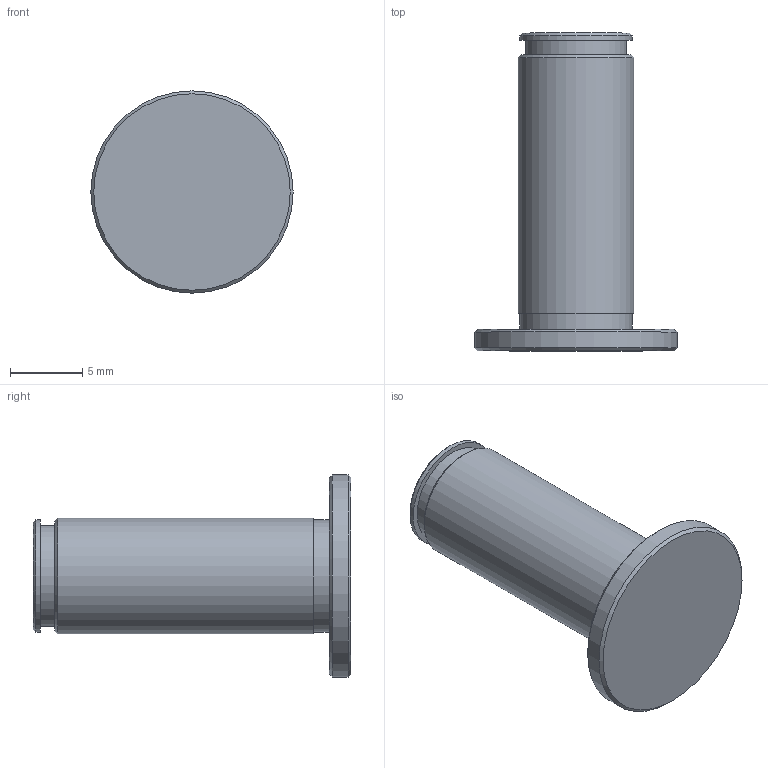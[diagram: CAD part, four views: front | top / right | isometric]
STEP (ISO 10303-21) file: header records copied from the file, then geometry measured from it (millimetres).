
FILE_DESCRIPTION(/* description */ ('STEP AP242 Edition 2','CAx-IF Rec.Pracs.---Representation and Presentation of Product Manufacturing Information (PMI)---4.0---2014-10-13','CAx-IF Rec.Pracs.---3D Tessellated Geometry---0.4---2014-09-14','2;1','CAx-IF Rec.Pracs.---User Defined Attributes---1.5---2016-08-15'),/* implementation_level */ '2;1');
FILE_NAME(/* name */ 'Assy_ForMFG - KD-D-505X_LinkagePin (1)',/* time_stamp */ '2026-05-15T19:56:38Z',/* author */ (''),/* organization */ (''),/* preprocessor_version */ 'ST-DEVELOPER v20',/* originating_system */ 'ONSHAPE BY PTC INC, 1.215',/* authorisation */ ' ');
FILE_SCHEMA (('AP242_MANAGED_MODEL_BASED_3D_ENGINEERING_MIM_LF { 1 0 10303 442 3 1 4 }'));
Length unit declared in the file: metre
Products named in the file (1): KD-D-505X_LinkagePin
Bounding box: 14 x 22 x 14 mm (x, y, z)
Volume: 1242.9 mm3; surface area: 892.2 mm2
Topology: 1 solids, 1 shells, 15 faces, 26 edges, 17 vertices
Faces by surface type: plane 6, cylinder 5, cone 4
Full cylindrical faces by diameter (mm): 7 x1, 7.8 x2, 8 x1, 14 x1
Entity records: 316 total; most frequent: DIRECTION 60, CARTESIAN_POINT 44, AXIS2_PLACEMENT_3D 30, ORIENTED_EDGE 28, EDGE_LOOP 28, FACE_BOUND 28, ADVANCED_FACE 15, EDGE_CURVE 14
